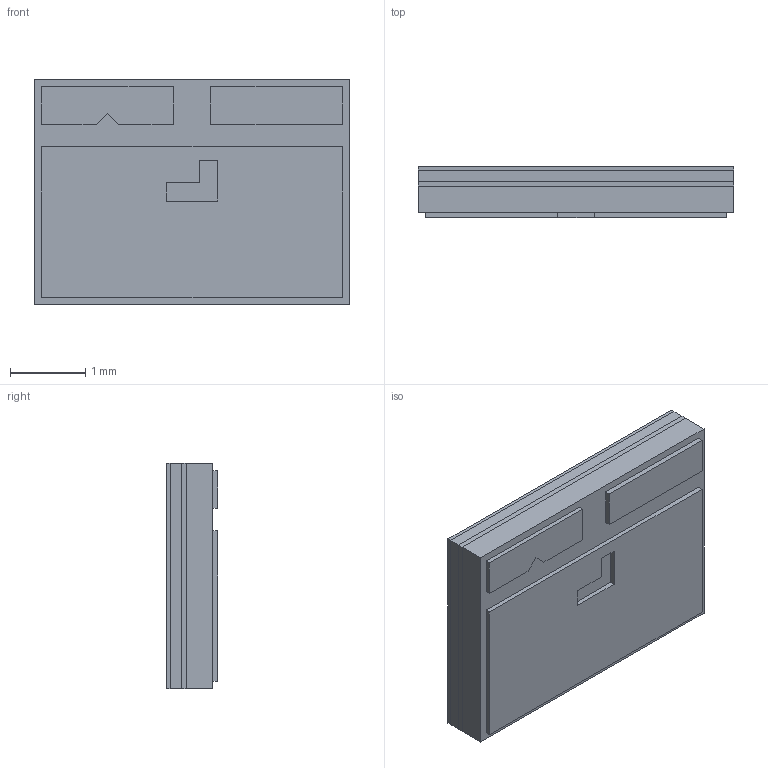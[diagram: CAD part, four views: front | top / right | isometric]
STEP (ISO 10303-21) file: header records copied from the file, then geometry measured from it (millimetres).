
FILE_DESCRIPTION (( 'STEP AP203' ), '1' );
FILE_NAME ('HFL3.STEP', '2019-05-06T06:59:49', ( 'user' ), ( '' ), 'SwSTEP 2.0', 'SolidWorks 2016', '' );
FILE_SCHEMA (( 'CONFIG_CONTROL_DESIGN' ));
Length unit declared in the file: millimetre
Products named in the file (1): HFL3
Bounding box: 4.2 x 0.68 x 3 mm (x, y, z)
Volume: 8.6 mm3; surface area: 103.3 mm2
Topology: 5 solids, 5 shells, 244 faces, 681 edges, 450 vertices
Faces by surface type: plane 244
Entity records: 7762 total; most frequent: CARTESIAN_POINT 1376, ORIENTED_EDGE 1362, DIRECTION 1171, VECTOR 681, LINE 681, EDGE_CURVE 681, VERTEX_POINT 450, EDGE_LOOP 269
